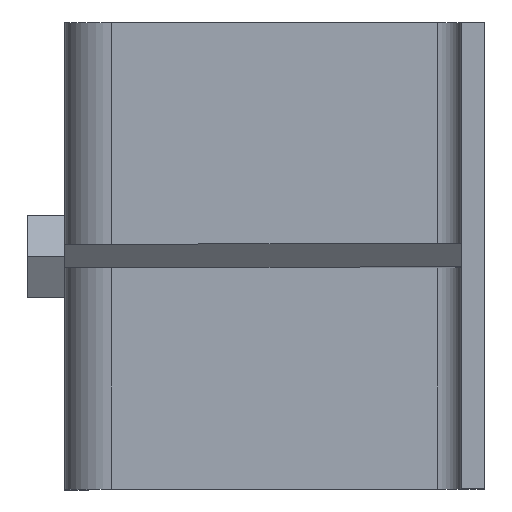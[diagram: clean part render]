
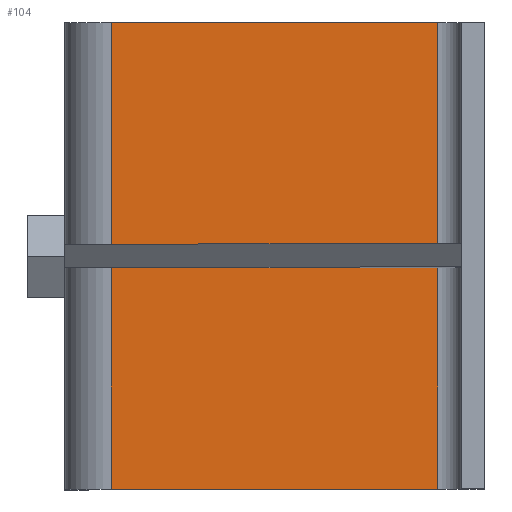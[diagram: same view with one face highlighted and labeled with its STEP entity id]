
A CAD part, top view. The second image highlights one B-rep face of the part: STEP entity #104.
In plain terms, the highlighted planar face has unit normal (0, 0, 1).
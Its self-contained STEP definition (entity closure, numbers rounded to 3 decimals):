
#71=FACE_OUTER_BOUND('',#187,.T.);
#104=ADVANCED_FACE('',(#71),#142,.T.);
#142=PLANE('',#752);
#187=EDGE_LOOP('',(#259,#260,#261,#262));
#259=ORIENTED_EDGE('',*,*,#482,.F.);
#260=ORIENTED_EDGE('',*,*,#491,.T.);
#261=ORIENTED_EDGE('',*,*,#467,.T.);
#262=ORIENTED_EDGE('',*,*,#492,.T.);
#407=VERTEX_POINT('',#986);
#408=VERTEX_POINT('',#987);
#419=VERTEX_POINT('',#1014);
#420=VERTEX_POINT('',#1016);
#467=EDGE_CURVE('',#407,#408,#554,.T.);
#482=EDGE_CURVE('',#419,#420,#564,.T.);
#491=EDGE_CURVE('',#419,#407,#570,.T.);
#492=EDGE_CURVE('',#408,#420,#571,.T.);
#554=LINE('',#985,#630);
#564=LINE('',#1015,#640);
#570=LINE('',#1032,#646);
#571=LINE('',#1033,#647);
#630=VECTOR('',#803,1.);
#640=VECTOR('',#827,1.);
#646=VECTOR('',#841,1.);
#647=VECTOR('',#842,1.);
#752=AXIS2_PLACEMENT_3D('',#1034,#843,#844);
#803=DIRECTION('',(1.,0.,0.));
#827=DIRECTION('',(1.,0.,0.));
#841=DIRECTION('',(0.,-1.,0.));
#842=DIRECTION('',(0.,1.,0.));
#843=DIRECTION('',(0.,0.,1.));
#844=DIRECTION('',(1.,0.,0.));
#985=CARTESIAN_POINT('',(-215.,3000.,2015.));
#986=CARTESIAN_POINT('',(-180.,3000.,2015.));
#987=CARTESIAN_POINT('',(-110.,3000.,2015.));
#1014=CARTESIAN_POINT('',(-180.,3100.,2015.));
#1015=CARTESIAN_POINT('',(-215.,3100.,2015.));
#1016=CARTESIAN_POINT('',(-110.,3100.,2015.));
#1032=CARTESIAN_POINT('',(-180.,3100.,2015.));
#1033=CARTESIAN_POINT('',(-110.,3100.,2015.));
#1034=CARTESIAN_POINT('',(-215.,3100.,2015.));
